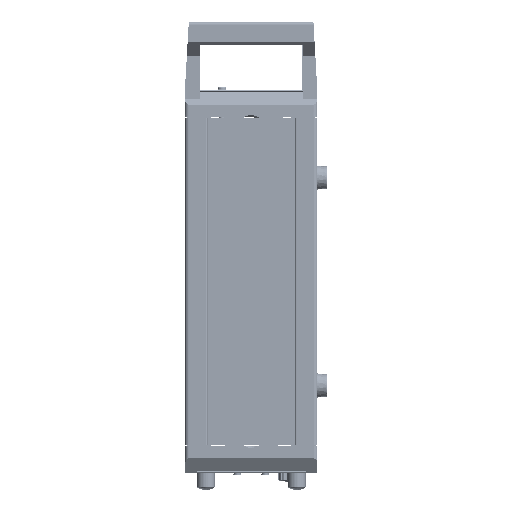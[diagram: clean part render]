
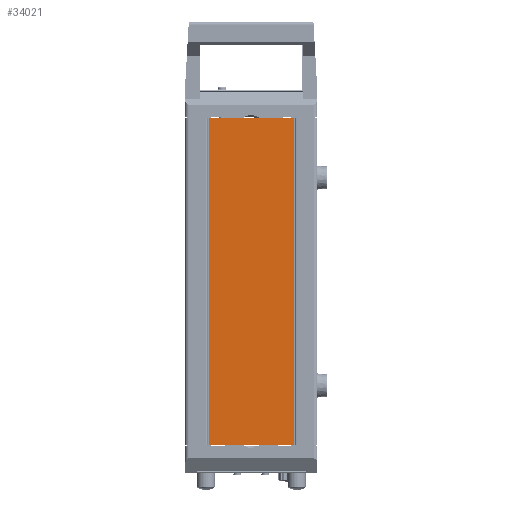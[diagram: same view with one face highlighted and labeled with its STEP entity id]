
A CAD part, left-side view. The second image highlights one B-rep face of the part: STEP entity #34021.
In plain terms, the highlighted planar face has unit normal (1, 0, 0).
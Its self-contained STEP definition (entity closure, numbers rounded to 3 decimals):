
#11256 = CARTESIAN_POINT ( 'NONE',  ( -117.22, 63., -206.2 ) ) ;
#11750 = CARTESIAN_POINT ( 'NONE',  ( -117.22, 6.1, -206.2 ) ) ;
#17007 = CARTESIAN_POINT ( 'NONE',  ( -117.22, 6.1, -206.2 ) ) ;
#19399 = VECTOR ( 'NONE', #95017, 1000. ) ;
#34021 = ADVANCED_FACE ( 'NONE', ( #68688 ), #107899, .F. ) ;
#35927 = LINE ( 'NONE', #75081, #19399 ) ;
#39787 = EDGE_CURVE ( 'NONE', #58142, #104014, #94080, .T. ) ;
#42847 = CARTESIAN_POINT ( 'NONE',  ( -117.22, 63., 11.2 ) ) ;
#49788 = CARTESIAN_POINT ( 'NONE',  ( -117.22, 63., -206.2 ) ) ;
#51046 = DIRECTION ( 'NONE',  ( 0., 0., 1. ) ) ;
#58142 = VERTEX_POINT ( 'NONE', #92130 ) ;
#59515 = VECTOR ( 'NONE', #115208, 1000. ) ;
#60024 = ORIENTED_EDGE ( 'NONE', *, *, #104212, .T. ) ;
#66410 = AXIS2_PLACEMENT_3D ( 'NONE', #119472, #99541, #111074 ) ;
#68688 = FACE_OUTER_BOUND ( 'NONE', #104990, .T. ) ;
#75081 = CARTESIAN_POINT ( 'NONE',  ( -117.22, 63., -206.2 ) ) ;
#79449 = LINE ( 'NONE', #121868, #59515 ) ;
#85060 = DIRECTION ( 'NONE',  ( 0., 0., -1. ) ) ;
#86123 = VERTEX_POINT ( 'NONE', #42847 ) ;
#89216 = ORIENTED_EDGE ( 'NONE', *, *, #39787, .T. ) ;
#92130 = CARTESIAN_POINT ( 'NONE',  ( -117.22, 6.1, 11.2 ) ) ;
#94080 = LINE ( 'NONE', #17007, #94325 ) ;
#94325 = VECTOR ( 'NONE', #85060, 1000. ) ;
#95017 = DIRECTION ( 'NONE',  ( 0., 1., 0. ) ) ;
#99541 = DIRECTION ( 'NONE',  ( -1., 0., 0. ) ) ;
#104014 = VERTEX_POINT ( 'NONE', #11750 ) ;
#104212 = EDGE_CURVE ( 'NONE', #104014, #114853, #35927, .T. ) ;
#104990 = EDGE_LOOP ( 'NONE', ( #60024, #120473, #110234, #89216 ) ) ;
#107899 = PLANE ( 'NONE',  #66410 ) ;
#110234 = ORIENTED_EDGE ( 'NONE', *, *, #122622, .T. ) ;
#110798 = LINE ( 'NONE', #11256, #113413 ) ;
#111074 = DIRECTION ( 'NONE',  ( 0., 0., 1. ) ) ;
#113413 = VECTOR ( 'NONE', #51046, 1000. ) ;
#114853 = VERTEX_POINT ( 'NONE', #49788 ) ;
#115208 = DIRECTION ( 'NONE',  ( 0., -1., 0. ) ) ;
#119472 = CARTESIAN_POINT ( 'NONE',  ( -117.22, 6.1, 11.2 ) ) ;
#120473 = ORIENTED_EDGE ( 'NONE', *, *, #126512, .T. ) ;
#121868 = CARTESIAN_POINT ( 'NONE',  ( -117.22, 63., 11.2 ) ) ;
#122622 = EDGE_CURVE ( 'NONE', #86123, #58142, #79449, .T. ) ;
#126512 = EDGE_CURVE ( 'NONE', #114853, #86123, #110798, .T. ) ;
